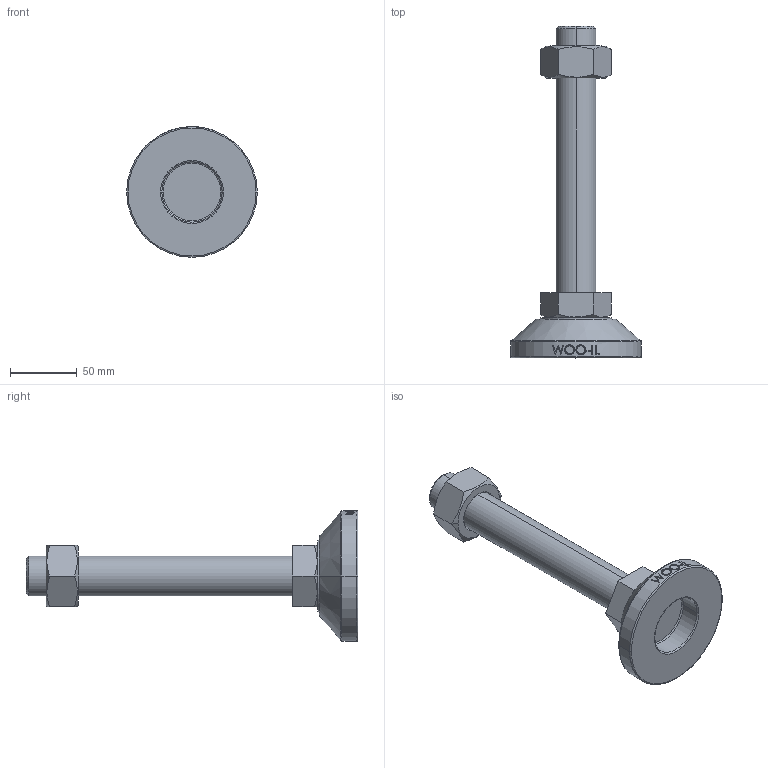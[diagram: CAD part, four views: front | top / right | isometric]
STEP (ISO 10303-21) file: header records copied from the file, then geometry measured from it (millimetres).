
FILE_DESCRIPTION (( 'STEP AP214' ), '1' );
FILE_NAME ('MF98-M30-200.step', '2021-02-03T08:24:05', ( '' ), ( '' ), 'SwSTEP 2.0', 'SolidWorks 2019', '' );
FILE_SCHEMA (( 'AUTOMOTIVE_DESIGN' ));
Length unit declared in the file: millimetre
Products named in the file (2): MF98-M30-200
Bounding box: 98 x 249 x 98 mm (x, y, z)
Volume: 354672.6 mm3; surface area: 55934.7 mm2
Topology: 3 solids, 3 shells, 106 faces, 243 edges, 154 vertices
Faces by surface type: plane 48, cylinder 18, bspline 16, cone 14, torus 10
Entity records: 4554 total; most frequent: CARTESIAN_POINT 2211, ORIENTED_EDGE 486, DIRECTION 439, EDGE_CURVE 243, AXIS2_PLACEMENT_3D 170, VERTEX_POINT 154, EDGE_LOOP 119, FACE_OUTER_BOUND 106
